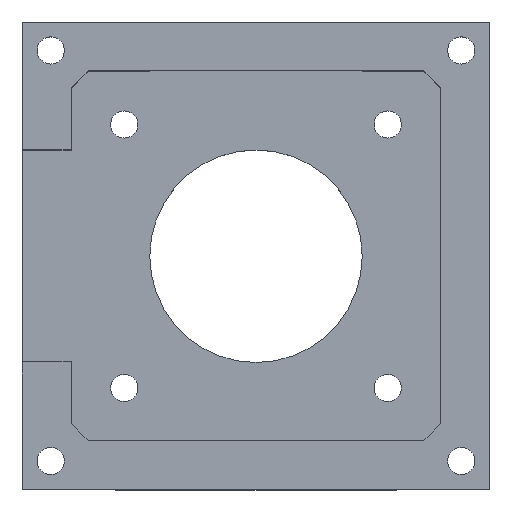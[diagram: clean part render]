
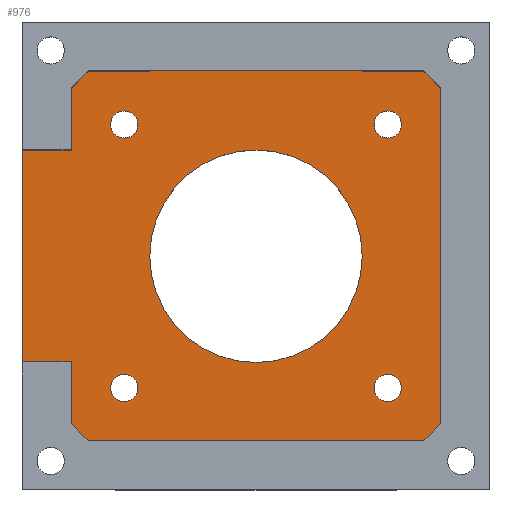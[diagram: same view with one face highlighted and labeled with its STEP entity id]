
A CAD part, top view. The second image highlights one B-rep face of the part: STEP entity #976.
In plain terms, the highlighted planar face has unit normal (0, 0, 1).
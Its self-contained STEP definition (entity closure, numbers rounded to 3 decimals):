
#39=FACE_BOUND('',#163,.T.);
#40=FACE_BOUND('',#164,.T.);
#41=FACE_BOUND('',#165,.T.);
#42=FACE_BOUND('',#166,.T.);
#43=FACE_BOUND('',#167,.T.);
#58=CIRCLE('',#1043,1.6);
#59=CIRCLE('',#1045,1.6);
#60=CIRCLE('',#1047,1.6);
#61=CIRCLE('',#1049,12.5);
#62=CIRCLE('',#1051,1.6);
#103=FACE_OUTER_BOUND('',#162,.T.);
#162=EDGE_LOOP('',(#844,#845,#846,#847,#848,#849,#850,#851,#852,#853,#854,
#855,#856,#857,#858,#859,#860,#861,#862,#863,#864,#865,#866,#867));
#163=EDGE_LOOP('',(#868));
#164=EDGE_LOOP('',(#869));
#165=EDGE_LOOP('',(#870));
#166=EDGE_LOOP('',(#871));
#167=EDGE_LOOP('',(#872));
#190=LINE('',#1349,#307);
#200=LINE('',#1369,#317);
#240=LINE('',#1466,#357);
#242=LINE('',#1470,#359);
#244=LINE('',#1475,#361);
#247=LINE('',#1480,#364);
#249=LINE('',#1485,#366);
#252=LINE('',#1491,#369);
#255=LINE('',#1496,#372);
#257=LINE('',#1500,#374);
#262=LINE('',#1508,#379);
#264=LINE('',#1513,#381);
#267=LINE('',#1518,#384);
#269=LINE('',#1522,#386);
#270=LINE('',#1524,#387);
#272=LINE('',#1528,#389);
#273=LINE('',#1531,#390);
#275=LINE('',#1535,#392);
#278=LINE('',#1539,#395);
#284=LINE('',#1561,#401);
#285=LINE('',#1562,#402);
#286=LINE('',#1563,#403);
#287=LINE('',#1564,#404);
#288=LINE('',#1565,#405);
#307=VECTOR('',#1092,10.);
#317=VECTOR('',#1106,10.);
#357=VECTOR('',#1190,10.);
#359=VECTOR('',#1194,10.);
#361=VECTOR('',#1198,10.);
#364=VECTOR('',#1203,10.);
#366=VECTOR('',#1207,10.);
#369=VECTOR('',#1212,10.);
#372=VECTOR('',#1217,10.);
#374=VECTOR('',#1219,10.);
#379=VECTOR('',#1228,10.);
#381=VECTOR('',#1232,10.);
#384=VECTOR('',#1237,10.);
#386=VECTOR('',#1241,10.);
#387=VECTOR('',#1244,10.);
#389=VECTOR('',#1248,10.);
#390=VECTOR('',#1251,10.);
#392=VECTOR('',#1255,10.);
#395=VECTOR('',#1260,10.);
#401=VECTOR('',#1288,10.);
#402=VECTOR('',#1289,10.);
#403=VECTOR('',#1290,10.);
#404=VECTOR('',#1291,10.);
#405=VECTOR('',#1292,10.);
#427=VERTEX_POINT('',#1346);
#428=VERTEX_POINT('',#1348);
#435=VERTEX_POINT('',#1366);
#436=VERTEX_POINT('',#1368);
#471=VERTEX_POINT('',#1464);
#472=VERTEX_POINT('',#1468);
#473=VERTEX_POINT('',#1472);
#474=VERTEX_POINT('',#1474);
#475=VERTEX_POINT('',#1478);
#476=VERTEX_POINT('',#1482);
#477=VERTEX_POINT('',#1484);
#478=VERTEX_POINT('',#1488);
#479=VERTEX_POINT('',#1490);
#480=VERTEX_POINT('',#1494);
#481=VERTEX_POINT('',#1497);
#482=VERTEX_POINT('',#1499);
#483=VERTEX_POINT('',#1506);
#484=VERTEX_POINT('',#1510);
#485=VERTEX_POINT('',#1512);
#486=VERTEX_POINT('',#1516);
#487=VERTEX_POINT('',#1520);
#488=VERTEX_POINT('',#1526);
#489=VERTEX_POINT('',#1530);
#490=VERTEX_POINT('',#1534);
#491=VERTEX_POINT('',#1541);
#492=VERTEX_POINT('',#1545);
#493=VERTEX_POINT('',#1549);
#494=VERTEX_POINT('',#1553);
#495=VERTEX_POINT('',#1557);
#519=EDGE_CURVE('',#428,#427,#190,.T.);
#529=EDGE_CURVE('',#436,#435,#200,.T.);
#577=EDGE_CURVE('',#471,#435,#240,.T.);
#579=EDGE_CURVE('',#471,#472,#242,.T.);
#581=EDGE_CURVE('',#473,#474,#244,.T.);
#584=EDGE_CURVE('',#472,#475,#247,.T.);
#586=EDGE_CURVE('',#476,#477,#249,.T.);
#589=EDGE_CURVE('',#479,#478,#252,.T.);
#592=EDGE_CURVE('',#478,#480,#255,.T.);
#594=EDGE_CURVE('',#482,#481,#257,.T.);
#599=EDGE_CURVE('',#483,#480,#262,.T.);
#601=EDGE_CURVE('',#485,#484,#264,.T.);
#604=EDGE_CURVE('',#484,#486,#267,.T.);
#606=EDGE_CURVE('',#487,#427,#269,.T.);
#607=EDGE_CURVE('',#436,#486,#270,.T.);
#609=EDGE_CURVE('',#481,#488,#272,.T.);
#610=EDGE_CURVE('',#482,#489,#273,.T.);
#612=EDGE_CURVE('',#428,#490,#275,.T.);
#615=EDGE_CURVE('',#473,#477,#278,.T.);
#617=EDGE_CURVE('',#491,#491,#58,.T.);
#619=EDGE_CURVE('',#492,#492,#59,.T.);
#621=EDGE_CURVE('',#493,#493,#60,.T.);
#623=EDGE_CURVE('',#494,#494,#61,.T.);
#625=EDGE_CURVE('',#495,#495,#62,.T.);
#626=EDGE_CURVE('',#488,#490,#284,.T.);
#627=EDGE_CURVE('',#487,#485,#285,.T.);
#628=EDGE_CURVE('',#475,#474,#286,.T.);
#629=EDGE_CURVE('',#476,#479,#287,.T.);
#630=EDGE_CURVE('',#483,#489,#288,.T.);
#844=ORIENTED_EDGE('',*,*,#594,.T.);
#845=ORIENTED_EDGE('',*,*,#609,.T.);
#846=ORIENTED_EDGE('',*,*,#626,.T.);
#847=ORIENTED_EDGE('',*,*,#612,.F.);
#848=ORIENTED_EDGE('',*,*,#519,.T.);
#849=ORIENTED_EDGE('',*,*,#606,.F.);
#850=ORIENTED_EDGE('',*,*,#627,.T.);
#851=ORIENTED_EDGE('',*,*,#601,.T.);
#852=ORIENTED_EDGE('',*,*,#604,.T.);
#853=ORIENTED_EDGE('',*,*,#607,.F.);
#854=ORIENTED_EDGE('',*,*,#529,.T.);
#855=ORIENTED_EDGE('',*,*,#577,.F.);
#856=ORIENTED_EDGE('',*,*,#579,.T.);
#857=ORIENTED_EDGE('',*,*,#584,.T.);
#858=ORIENTED_EDGE('',*,*,#628,.T.);
#859=ORIENTED_EDGE('',*,*,#581,.F.);
#860=ORIENTED_EDGE('',*,*,#615,.T.);
#861=ORIENTED_EDGE('',*,*,#586,.F.);
#862=ORIENTED_EDGE('',*,*,#629,.T.);
#863=ORIENTED_EDGE('',*,*,#589,.T.);
#864=ORIENTED_EDGE('',*,*,#592,.T.);
#865=ORIENTED_EDGE('',*,*,#599,.F.);
#866=ORIENTED_EDGE('',*,*,#630,.T.);
#867=ORIENTED_EDGE('',*,*,#610,.F.);
#868=ORIENTED_EDGE('',*,*,#621,.F.);
#869=ORIENTED_EDGE('',*,*,#619,.F.);
#870=ORIENTED_EDGE('',*,*,#625,.F.);
#871=ORIENTED_EDGE('',*,*,#617,.F.);
#872=ORIENTED_EDGE('',*,*,#623,.T.);
#932=PLANE('',#1052);
#976=ADVANCED_FACE('',(#103,#39,#40,#41,#42,#43),#932,.F.);
#1043=AXIS2_PLACEMENT_3D('',#1543,#1264,#1265);
#1045=AXIS2_PLACEMENT_3D('',#1547,#1269,#1270);
#1047=AXIS2_PLACEMENT_3D('',#1551,#1274,#1275);
#1049=AXIS2_PLACEMENT_3D('',#1555,#1279,#1280);
#1051=AXIS2_PLACEMENT_3D('',#1559,#1284,#1285);
#1052=AXIS2_PLACEMENT_3D('',#1560,#1286,#1287);
#1092=DIRECTION('',(-1.,0.,0.));
#1106=DIRECTION('',(0.,-1.,0.));
#1190=DIRECTION('',(-1.,0.,0.));
#1194=DIRECTION('',(0.,-1.,0.));
#1198=DIRECTION('',(0.,1.,0.));
#1203=DIRECTION('',(0.707,-0.707,0.));
#1207=DIRECTION('',(0.,-1.,0.));
#1212=DIRECTION('',(0.707,0.707,0.));
#1217=DIRECTION('',(0.,1.,0.));
#1219=DIRECTION('',(0.,1.,0.));
#1228=DIRECTION('',(-1.,0.,0.));
#1232=DIRECTION('',(-0.707,-0.707,0.));
#1237=DIRECTION('',(0.,-1.,0.));
#1241=DIRECTION('',(0.,1.,0.));
#1244=DIRECTION('',(1.,0.,0.));
#1248=DIRECTION('',(-0.707,0.707,0.));
#1251=DIRECTION('',(1.,0.,0.));
#1255=DIRECTION('',(0.,-1.,0.));
#1260=DIRECTION('',(1.,0.,0.));
#1264=DIRECTION('center_axis',(0.,0.,1.));
#1265=DIRECTION('ref_axis',(1.,0.,0.));
#1269=DIRECTION('center_axis',(0.,0.,1.));
#1270=DIRECTION('ref_axis',(1.,0.,0.));
#1274=DIRECTION('center_axis',(0.,0.,1.));
#1275=DIRECTION('ref_axis',(1.,0.,0.));
#1279=DIRECTION('center_axis',(0.,0.,-1.));
#1280=DIRECTION('ref_axis',(1.,0.,0.));
#1284=DIRECTION('center_axis',(0.,0.,1.));
#1285=DIRECTION('ref_axis',(1.,0.,0.));
#1286=DIRECTION('center_axis',(0.,0.,-1.));
#1287=DIRECTION('ref_axis',(1.,0.,0.));
#1288=DIRECTION('',(-1.,0.,0.));
#1289=DIRECTION('',(-1.,0.,0.));
#1290=DIRECTION('',(1.,0.,0.));
#1291=DIRECTION('',(1.,0.,0.));
#1292=DIRECTION('',(0.,1.,0.));
#1346=CARTESIAN_POINT('',(-12.5,206.,59.5));
#1348=CARTESIAN_POINT('',(12.5,206.,59.5));
#1349=CARTESIAN_POINT('',(12.5,206.,59.5));
#1366=CARTESIAN_POINT('',(-27.5,166.,59.5));
#1368=CARTESIAN_POINT('',(-27.5,191.,59.5));
#1369=CARTESIAN_POINT('',(-27.5,191.,59.5));
#1464=CARTESIAN_POINT('',(-21.75,166.,59.5));
#1466=CARTESIAN_POINT('',(7.5,166.,59.5));
#1468=CARTESIAN_POINT('',(-21.75,158.75,59.5));
#1470=CARTESIAN_POINT('',(-21.75,167.625,59.5));
#1472=CARTESIAN_POINT('',(-12.5,151.,59.5));
#1474=CARTESIAN_POINT('',(-12.5,156.75,59.5));
#1475=CARTESIAN_POINT('',(-12.5,186.,59.5));
#1478=CARTESIAN_POINT('',(-19.75,156.75,59.5));
#1480=CARTESIAN_POINT('',(-20.75,157.75,59.5));
#1482=CARTESIAN_POINT('',(12.5,156.75,59.5));
#1484=CARTESIAN_POINT('',(12.5,151.,59.5));
#1485=CARTESIAN_POINT('',(12.5,186.,59.5));
#1488=CARTESIAN_POINT('',(21.75,158.75,59.5));
#1490=CARTESIAN_POINT('',(19.75,156.75,59.5));
#1491=CARTESIAN_POINT('',(20.75,157.75,59.5));
#1494=CARTESIAN_POINT('',(21.75,166.,59.5));
#1496=CARTESIAN_POINT('',(21.75,189.375,59.5));
#1497=CARTESIAN_POINT('',(21.75,198.25,59.5));
#1499=CARTESIAN_POINT('',(21.75,191.,59.5));
#1500=CARTESIAN_POINT('',(21.75,189.375,59.5));
#1506=CARTESIAN_POINT('',(27.5,166.,59.5));
#1508=CARTESIAN_POINT('',(23.75,166.,59.5));
#1510=CARTESIAN_POINT('',(-21.75,198.25,59.5));
#1512=CARTESIAN_POINT('',(-19.75,200.25,59.5));
#1513=CARTESIAN_POINT('',(-20.75,199.25,59.5));
#1516=CARTESIAN_POINT('',(-21.75,191.,59.5));
#1518=CARTESIAN_POINT('',(-21.75,167.625,59.5));
#1520=CARTESIAN_POINT('',(-12.5,200.25,59.5));
#1522=CARTESIAN_POINT('',(-12.5,198.5,59.5));
#1524=CARTESIAN_POINT('',(7.5,191.,59.5));
#1526=CARTESIAN_POINT('',(19.75,200.25,59.5));
#1528=CARTESIAN_POINT('',(20.75,199.25,59.5));
#1530=CARTESIAN_POINT('',(27.5,191.,59.5));
#1531=CARTESIAN_POINT('',(23.75,191.,59.5));
#1534=CARTESIAN_POINT('',(12.5,200.25,59.5));
#1535=CARTESIAN_POINT('',(12.5,198.5,59.5));
#1539=CARTESIAN_POINT('',(-12.5,151.,59.5));
#1541=CARTESIAN_POINT('',(13.9,163.,59.5));
#1543=CARTESIAN_POINT('Origin',(15.5,163.,59.5));
#1545=CARTESIAN_POINT('',(-17.1,194.,59.5));
#1547=CARTESIAN_POINT('Origin',(-15.5,194.,59.5));
#1549=CARTESIAN_POINT('',(13.9,194.,59.5));
#1551=CARTESIAN_POINT('Origin',(15.5,194.,59.5));
#1553=CARTESIAN_POINT('',(-12.5,178.5,59.5));
#1555=CARTESIAN_POINT('Origin',(0.,178.5,59.5));
#1557=CARTESIAN_POINT('',(-17.1,163.,59.5));
#1559=CARTESIAN_POINT('Origin',(-15.5,163.,59.5));
#1560=CARTESIAN_POINT('Origin',(0.,178.5,59.5));
#1561=CARTESIAN_POINT('',(-10.875,200.25,59.5));
#1562=CARTESIAN_POINT('',(-10.875,200.25,59.5));
#1563=CARTESIAN_POINT('',(10.875,156.75,59.5));
#1564=CARTESIAN_POINT('',(10.875,156.75,59.5));
#1565=CARTESIAN_POINT('',(27.5,166.,59.5));
